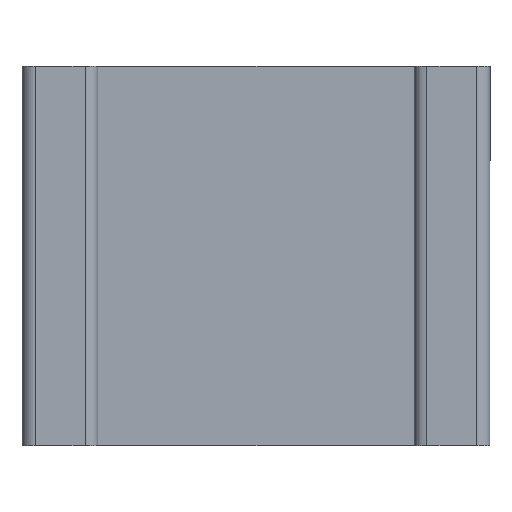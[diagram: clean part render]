
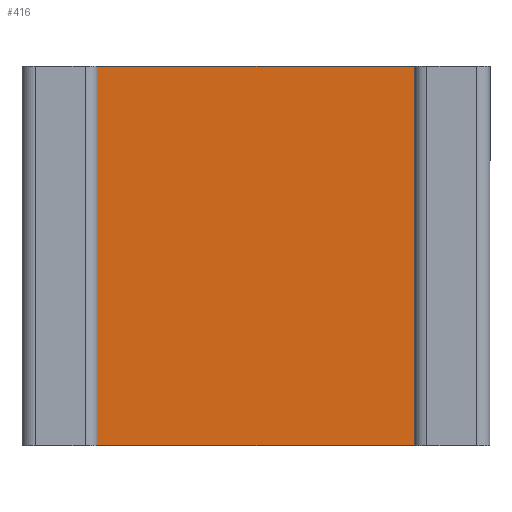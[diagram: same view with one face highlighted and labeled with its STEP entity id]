
A CAD part, front view. The second image highlights one B-rep face of the part: STEP entity #416.
In plain terms, the highlighted planar face has unit normal (0, -1, 0).
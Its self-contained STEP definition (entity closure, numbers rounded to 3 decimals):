
#21 = ORIENTED_EDGE ( 'NONE', *, *, #300, .F. ) ;
#91 = ORIENTED_EDGE ( 'NONE', *, *, #693, .F. ) ;
#98 = DIRECTION ( 'NONE',  ( 1., 0., 0. ) ) ;
#109 = CARTESIAN_POINT ( 'NONE',  ( -0.635, 0., -0.762 ) ) ;
#113 = DIRECTION ( 'NONE',  ( -1., 0., 0. ) ) ;
#137 = CARTESIAN_POINT ( 'NONE',  ( -0.635, 0., -0.762 ) ) ;
#145 = DIRECTION ( 'NONE',  ( 0., 0., -1. ) ) ;
#178 = VECTOR ( 'NONE', #113, 1000. ) ;
#212 = LINE ( 'NONE', #569, #297 ) ;
#289 = VERTEX_POINT ( 'NONE', #321 ) ;
#297 = VECTOR ( 'NONE', #145, 1000. ) ;
#300 = EDGE_CURVE ( 'Defeatured_0_18+Defeatured_0_0+Defeatured_0_1+Defeatured_0_2', #357, #289, #212, .T. ) ;
#321 = CARTESIAN_POINT ( 'NONE',  ( 0.635, 0., -0.762 ) ) ;
#357 = VERTEX_POINT ( 'NONE', #580 ) ;
#366 = LINE ( 'NONE', #479, #178 ) ;
#414 = LINE ( 'NONE', #109, #799 ) ;
#416 = ADVANCED_FACE ( 'Defeatured_0_0', ( #630 ), #438, .F. ) ;
#438 = PLANE ( 'NONE',  #495 ) ;
#462 = CARTESIAN_POINT ( 'NONE',  ( -0.889, 0., 0.762 ) ) ;
#479 = CARTESIAN_POINT ( 'NONE',  ( -0.889, 0., -0.762 ) ) ;
#491 = ORIENTED_EDGE ( 'NONE', *, *, #710, .F. ) ;
#495 = AXIS2_PLACEMENT_3D ( 'NONE', #510, #505, #691 ) ;
#505 = DIRECTION ( 'NONE',  ( 0., 1., 0. ) ) ;
#510 = CARTESIAN_POINT ( 'NONE',  ( 0., 0., 0. ) ) ;
#541 = VERTEX_POINT ( 'NONE', #137 ) ;
#544 = EDGE_LOOP ( 'NONE', ( #21, #91, #804, #491 ) ) ;
#569 = CARTESIAN_POINT ( 'NONE',  ( 0.635, 0., -0.762 ) ) ;
#579 = VECTOR ( 'NONE', #98, 1000. ) ;
#580 = CARTESIAN_POINT ( 'NONE',  ( 0.635, 0., 0.762 ) ) ;
#623 = VERTEX_POINT ( 'NONE', #795 ) ;
#630 = FACE_OUTER_BOUND ( 'NONE', #544, .T. ) ;
#655 = LINE ( 'NONE', #462, #579 ) ;
#691 = DIRECTION ( 'NONE',  ( 0., 0., 1. ) ) ;
#693 = EDGE_CURVE ( 'Defeatured_0_1+Defeatured_0_0+Defeatured_0_19+Defeatured_0_18', #623, #357, #655, .T. ) ;
#710 = EDGE_CURVE ( 'Defeatured_0_2+Defeatured_0_0+Defeatured_0_18+Defeatured_0_19', #289, #541, #366, .T. ) ;
#793 = EDGE_CURVE ( 'Defeatured_0_19+Defeatured_0_0+Defeatured_0_2+Defeatured_0_1', #541, #623, #414, .T. ) ;
#795 = CARTESIAN_POINT ( 'NONE',  ( -0.635, 0., 0.762 ) ) ;
#799 = VECTOR ( 'NONE', #807, 1000. ) ;
#804 = ORIENTED_EDGE ( 'NONE', *, *, #793, .F. ) ;
#807 = DIRECTION ( 'NONE',  ( 0., 0., 1. ) ) ;
